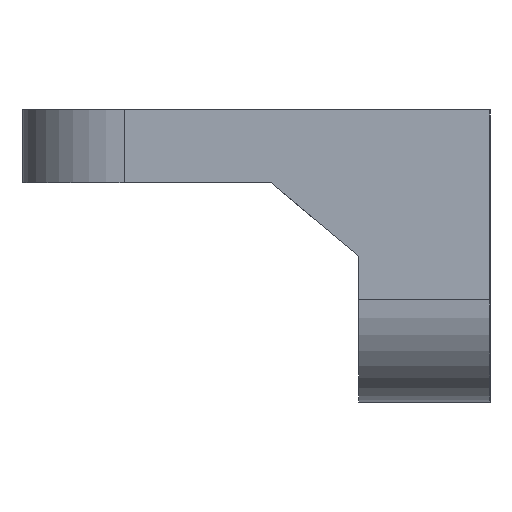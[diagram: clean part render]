
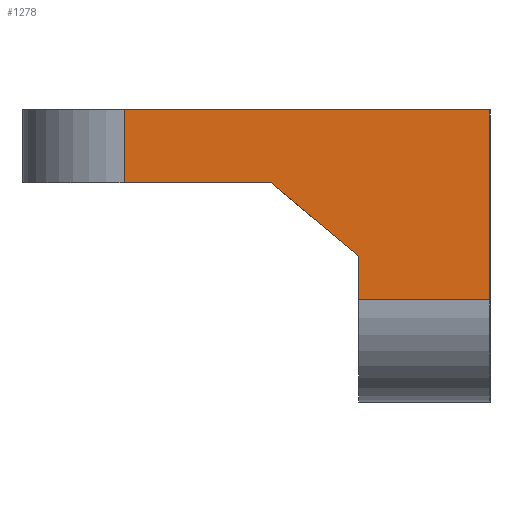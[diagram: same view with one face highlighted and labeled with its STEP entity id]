
A CAD part, left-side view. The second image highlights one B-rep face of the part: STEP entity #1278.
In plain terms, the highlighted planar face has unit normal (-1, 0, 0).
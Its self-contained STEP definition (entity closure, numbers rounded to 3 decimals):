
#32 = LINE ( 'NONE', #1488, #139 ) ;
#87 = LINE ( 'NONE', #1602, #154 ) ;
#139 = VECTOR ( 'NONE', #1501, 1000. ) ;
#154 = VECTOR ( 'NONE', #1604, 1000. ) ;
#222 = LINE ( 'NONE', #1366, #230 ) ;
#230 = VECTOR ( 'NONE', #2810, 1000. ) ;
#256 = EDGE_CURVE ( 'NONE', #345, #360, #32, .T. ) ;
#305 = EDGE_CURVE ( 'NONE', #397, #415, #87, .T. ) ;
#310 = EDGE_CURVE ( 'NONE', #348, #481, #222, .T. ) ;
#345 = VERTEX_POINT ( 'NONE', #550 ) ;
#348 = VERTEX_POINT ( 'NONE', #563 ) ;
#360 = VERTEX_POINT ( 'NONE', #572 ) ;
#377 = VERTEX_POINT ( 'NONE', #581 ) ;
#397 = VERTEX_POINT ( 'NONE', #595 ) ;
#415 = VERTEX_POINT ( 'NONE', #611 ) ;
#478 = EDGE_LOOP ( 'NONE', ( #1144, #1112, #1140, #1110, #1137, #1108, #1094 ) ) ;
#481 = VERTEX_POINT ( 'NONE', #1933 ) ;
#550 = CARTESIAN_POINT ( 'NONE',  ( -84.5, -12.05, 5. ) ) ;
#563 = CARTESIAN_POINT ( 'NONE',  ( -84.5, -3.05, -8. ) ) ;
#572 = CARTESIAN_POINT ( 'NONE',  ( -84.5, -12.05, -8. ) ) ;
#581 = CARTESIAN_POINT ( 'NONE',  ( -84.5, 13., 5. ) ) ;
#595 = CARTESIAN_POINT ( 'NONE',  ( -84.5, 2.909, 0. ) ) ;
#611 = CARTESIAN_POINT ( 'NONE',  ( -84.5, 13., 0. ) ) ;
#1094 = ORIENTED_EDGE ( 'NONE', *, *, #2762, .T. ) ;
#1108 = ORIENTED_EDGE ( 'NONE', *, *, #305, .F. ) ;
#1110 = ORIENTED_EDGE ( 'NONE', *, *, #2736, .F. ) ;
#1112 = ORIENTED_EDGE ( 'NONE', *, *, #2759, .T. ) ;
#1137 = ORIENTED_EDGE ( 'NONE', *, *, #2760, .T. ) ;
#1140 = ORIENTED_EDGE ( 'NONE', *, *, #256, .F. ) ;
#1144 = ORIENTED_EDGE ( 'NONE', *, *, #310, .F. ) ;
#1278 = ADVANCED_FACE ( 'NONE', ( #2281 ), #1317, .F. ) ;
#1315 = CARTESIAN_POINT ( 'NONE',  ( -84.5, 0., 0. ) ) ;
#1317 = PLANE ( 'NONE',  #2578 ) ;
#1320 = DIRECTION ( 'NONE',  ( 1., 0., 0. ) ) ;
#1321 = DIRECTION ( 'NONE',  ( 0., 0., -1. ) ) ;
#1366 = CARTESIAN_POINT ( 'NONE',  ( -84.5, -3.05, -15. ) ) ;
#1437 = CARTESIAN_POINT ( 'NONE',  ( -84.5, 20., 5. ) ) ;
#1438 = DIRECTION ( 'NONE',  ( 0., -1., 0. ) ) ;
#1488 = CARTESIAN_POINT ( 'NONE',  ( -84.5, -12.05, 5. ) ) ;
#1501 = DIRECTION ( 'NONE',  ( 0., 0., -1. ) ) ;
#1602 = CARTESIAN_POINT ( 'NONE',  ( -84.5, 0., 0. ) ) ;
#1604 = DIRECTION ( 'NONE',  ( 0., 1., 0. ) ) ;
#1933 = CARTESIAN_POINT ( 'NONE',  ( -84.5, -3.05, -5. ) ) ;
#2007 = CARTESIAN_POINT ( 'NONE',  ( -84.5, 13., 0. ) ) ;
#2017 = CARTESIAN_POINT ( 'NONE',  ( -84.5, 0., -8. ) ) ;
#2019 = DIRECTION ( 'NONE',  ( 0., -1., 0. ) ) ;
#2020 = DIRECTION ( 'NONE',  ( 0., 0., -1. ) ) ;
#2023 = CARTESIAN_POINT ( 'NONE',  ( -84.5, 1.202, -1.432 ) ) ;
#2024 = DIRECTION ( 'NONE',  ( 0., -0.766, -0.643 ) ) ;
#2281 = FACE_OUTER_BOUND ( 'NONE', #478, .T. ) ;
#2317 = LINE ( 'NONE', #2023, #2347 ) ;
#2321 = VECTOR ( 'NONE', #2020, 1000. ) ;
#2325 = LINE ( 'NONE', #2007, #2321 ) ;
#2333 = VECTOR ( 'NONE', #2019, 1000. ) ;
#2347 = VECTOR ( 'NONE', #2024, 1000. ) ;
#2386 = VECTOR ( 'NONE', #1438, 1000. ) ;
#2424 = LINE ( 'NONE', #1437, #2386 ) ;
#2433 = LINE ( 'NONE', #2017, #2333 ) ;
#2578 = AXIS2_PLACEMENT_3D ( 'NONE', #1315, #1320, #1321 ) ;
#2736 = EDGE_CURVE ( 'NONE', #377, #345, #2424, .T. ) ;
#2759 = EDGE_CURVE ( 'NONE', #348, #360, #2433, .T. ) ;
#2760 = EDGE_CURVE ( 'NONE', #377, #415, #2325, .T. ) ;
#2762 = EDGE_CURVE ( 'NONE', #397, #481, #2317, .T. ) ;
#2810 = DIRECTION ( 'NONE',  ( 0., 0., 1. ) ) ;
